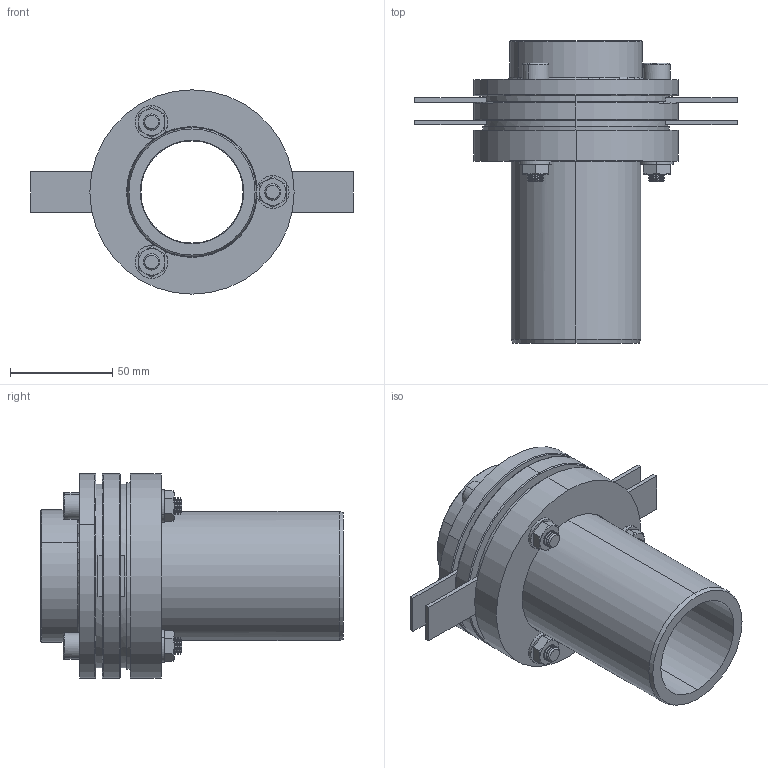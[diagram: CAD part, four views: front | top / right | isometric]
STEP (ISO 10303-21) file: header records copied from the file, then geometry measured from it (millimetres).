
FILE_DESCRIPTION (( 'STEP AP203' ), '1' );
FILE_NAME ('KP_C13-63F.step', '2011-08-08T12:02:17', ( '' ), ( '' ), 'SwSTEP 2.0', 'SolidWorks 2011', '' );
FILE_SCHEMA (( 'CONFIG_CONTROL_DESIGN' ));
Length unit declared in the file: millimetre
Products named in the file (1): KP_C13-63F
Bounding box: 157.75 x 148 x 100 mm (x, y, z)
Volume: 330379.1 mm3; surface area: 93477 mm2
Topology: 1 solids, 32 shells, 769 faces, 1683 edges, 942 vertices
Faces by surface type: cylinder 333, cone 319, plane 101, torus 16
Entity records: 21431 total; most frequent: CARTESIAN_POINT 4049, DIRECTION 4018, ORIENTED_EDGE 3366, EDGE_CURVE 1683, AXIS2_PLACEMENT_3D 1623, VERTEX_POINT 942, CIRCLE 853, EDGE_LOOP 807
